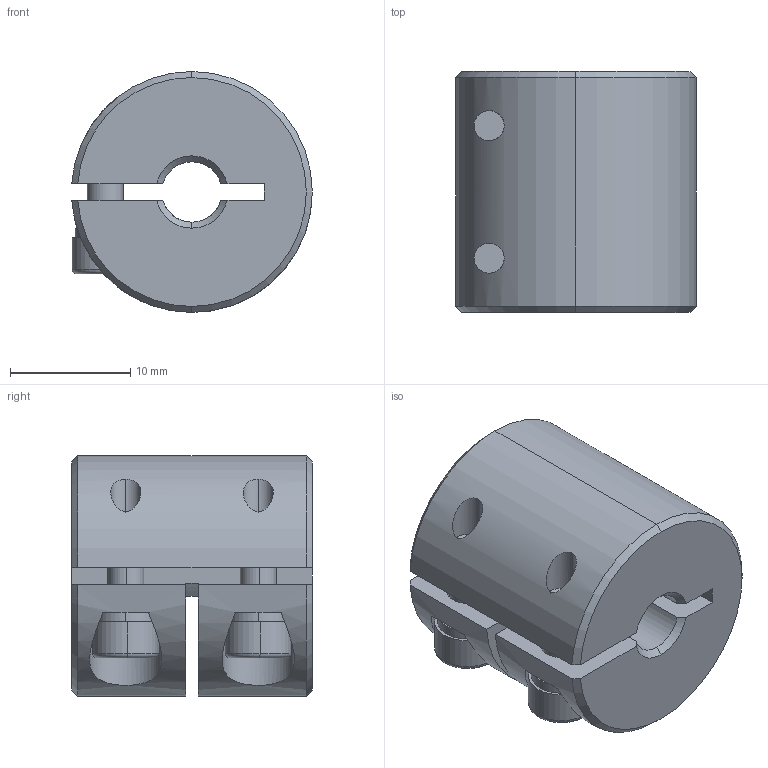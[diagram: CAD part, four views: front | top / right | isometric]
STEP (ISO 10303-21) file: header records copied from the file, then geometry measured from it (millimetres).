
FILE_DESCRIPTION (( 'STEP AP203' ), '1' );
FILE_NAME ('LL-B-D20L20-5-6.35.STEP', '2021-11-03T05:23:16', ( '' ), ( '' ), 'SwSTEP 2.0', 'SolidWorks 2018', '' );
FILE_SCHEMA (( 'CONFIG_CONTROL_DESIGN' ));
Length unit declared in the file: millimetre
Products named in the file (1): LL-B-D20L20-5-6.35
Bounding box: 19.98 x 20 x 20 mm (x, y, z)
Volume: 5252.6 mm3; surface area: 3128.9 mm2
Topology: 1 solids, 1 shells, 115 faces, 298 edges, 187 vertices
Faces by surface type: plane 53, cylinder 42, cone 16, torus 4
Entity records: 3764 total; most frequent: CARTESIAN_POINT 831, DIRECTION 625, ORIENTED_EDGE 588, EDGE_CURVE 294, AXIS2_PLACEMENT_3D 241, VERTEX_POINT 187, LINE 143, VECTOR 143
